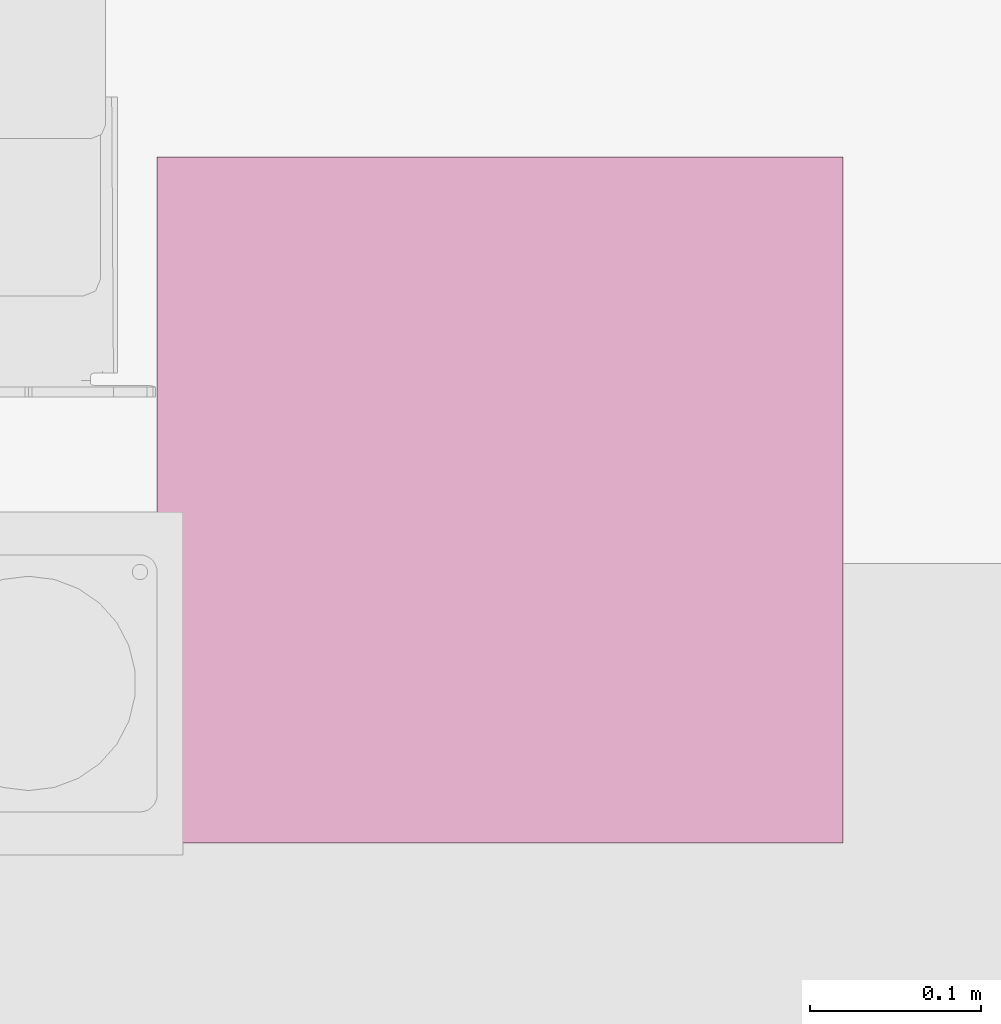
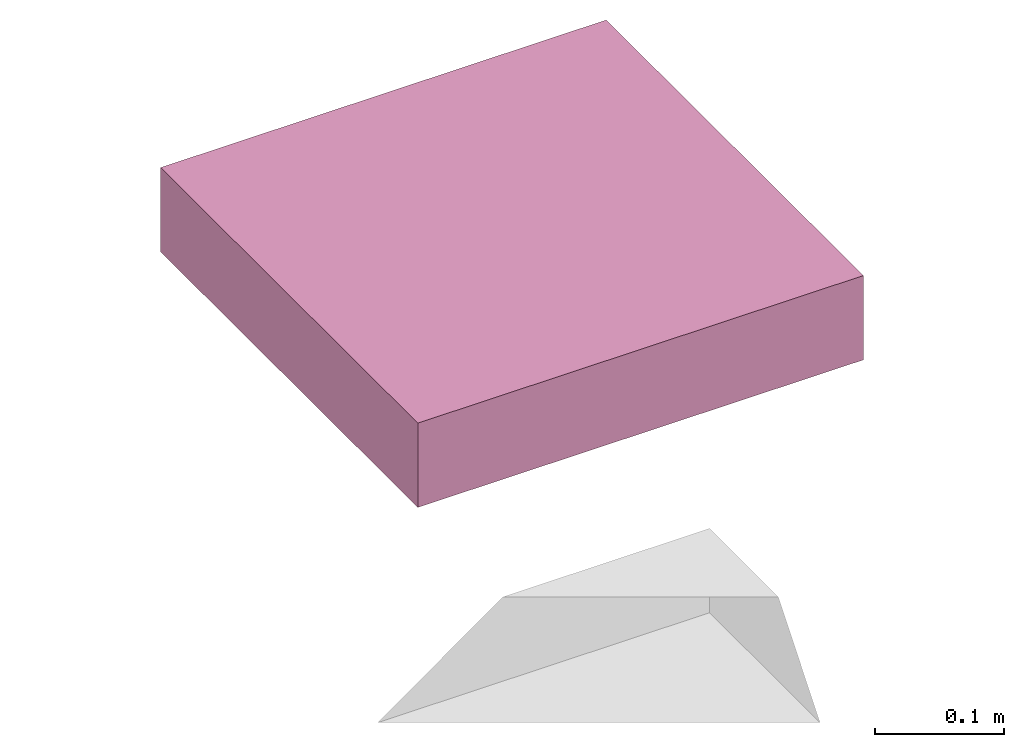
# One storey, part 15 of 15: 1 transport element.
"""IFC2X3 building model written with IfcOpenShell, lengths in millimetres."""

import ifcopenshell
import ifcopenshell.guid

model = None  # the IFC model being written
_history = None  # IfcOwnerHistory: only IFC2X3 demands one
_inside = {}  # id of a spatial element -> (the spatial element, [elements in it])
_under = {}  # id of a project, library or spatial element -> (it, [spatial elements below it])
_declared = {}  # id of a project -> (the project, [libraries it declares])
_typed = {}  # id of a type object -> (the type object, [elements of that type])
_made_of = {}  # id of a material, layer set ... -> (it, [elements and type objects made of it])


def new_model(schema):
    """Start an empty IFC model of exactly this schema.

    Asked for "IFC4X3", IfcOpenShell would pick the latest addendum, in which some entities
    have other attributes; the version numbers below select the first issue.
    IFC2X3 requires an IfcOwnerHistory on every rooted entity: one is made here for all.
    """
    global model, _history
    if schema == "IFC4X3":
        model = ifcopenshell.file(schema_version=(4, 3, 0, 0))
    else:
        model = ifcopenshell.file(schema=schema)
    _inside.clear()
    _under.clear()
    _declared.clear()
    _typed.clear()
    _made_of.clear()
    _history = None
    if model.schema == "IFC2X3":
        org = make("IfcOrganization", Name="unknown")
        user = make(
            "IfcPersonAndOrganization",
            ThePerson=make("IfcPerson", FamilyName="unknown"),
            TheOrganization=org,
        )
        app = make(
            "IfcApplication",
            ApplicationDeveloper=org,
            Version="unknown",
            ApplicationFullName="unknown",
            ApplicationIdentifier="unknown",
        )
        _history = make(
            "IfcOwnerHistory",
            OwningUser=user,
            OwningApplication=app,
            ChangeAction="ADDED",
            CreationDate=0,
        )
    return model


def make(cls, **values):
    """One entity of the class cls with the attributes given. An attribute that is None is left unset."""
    return model.create_entity(
        cls, **{name: value for name, value in values.items() if value is not None}
    )


def entity(cls, *values):
    """Any entity or typed value of the class cls, its attributes in the order of the schema. None: left unset."""
    e = model.create_entity(cls)
    for i, value in enumerate(values):
        if value is not None:
            e[i] = value
    return e


def rooted(cls, **values):
    """An entity with a GlobalId (a new one), such as an element, a storey or a relation."""
    return make(cls, GlobalId=ifcopenshell.guid.new(), OwnerHistory=_history, **values)


def si_unit(unit_type, name, prefix=None):
    """IfcSIUnit, for example si_unit("LENGTHUNIT", "METRE", prefix="MILLI")."""
    return make("IfcSIUnit", UnitType=unit_type, Prefix=prefix, Name=name)


def converted_unit(unit_type, name, factor, base, dimensions=None, offset=None):
    """IfcConversionBasedUnit, such as the inch: factor (a typed value) times the base unit."""
    return make(
        "IfcConversionBasedUnit"
        if offset is None
        else "IfcConversionBasedUnitWithOffset",
        ConversionOffset=offset,
        Dimensions=None
        if dimensions is None
        else entity("IfcDimensionalExponents", *dimensions),
        UnitType=unit_type,
        Name=name,
        ConversionFactor=make(
            "IfcMeasureWithUnit", ValueComponent=factor, UnitComponent=base
        ),
    )


def derived_unit(unit_type, elements):
    """IfcDerivedUnit: a product of units, each with its exponent."""
    return make(
        "IfcDerivedUnit",
        Elements=[
            make("IfcDerivedUnitElement", Unit=unit, Exponent=power)
            for unit, power in elements
        ],
        UnitType=unit_type,
    )


def assignment(units):
    """IfcUnitAssignment: the units of a project."""
    return None if units is None else make("IfcUnitAssignment", Units=units)


def point(xyz):
    """IfcCartesianPoint."""
    return None if xyz is None else make("IfcCartesianPoint", Coordinates=xyz)


def direction(xyz):
    """IfcDirection."""
    return None if xyz is None else make("IfcDirection", DirectionRatios=xyz)


def frame(location, z_axis=None, x_axis=None):
    """IfcAxis2Placement3D, a coordinate frame: its origin and axes. An axis left out is left unset."""
    return make(
        "IfcAxis2Placement3D",
        Location=point(location),
        Axis=direction(z_axis),
        RefDirection=direction(x_axis),
    )


def origin():
    """The frame at (0, 0, 0) with its axes left unset."""
    return frame((0.0, 0.0, 0.0))


def place(relative_to, where):
    """IfcLocalPlacement: puts the frame where relative to a parent placement (None: the world)."""
    return make(
        "IfcLocalPlacement", PlacementRelTo=relative_to, RelativePlacement=where
    )


def context(
    kind, dimensions, precision=None, world=None, true_north=None, identifier=None
):
    """IfcGeometricRepresentationContext, for example the 3D "Model" context."""
    return make(
        "IfcGeometricRepresentationContext",
        ContextIdentifier=identifier,
        ContextType=kind,
        CoordinateSpaceDimension=dimensions,
        Precision=precision,
        WorldCoordinateSystem=world,
        TrueNorth=true_north,
    )


def subcontext(parent, identifier, kind, view, scale=None):
    """IfcGeometricRepresentationSubContext, for example "Body" below "Model"."""
    return make(
        "IfcGeometricRepresentationSubContext",
        ContextIdentifier=identifier,
        ContextType=kind,
        ParentContext=parent,
        TargetScale=scale,
        TargetView=view,
    )


def project(units=None, contexts=None):
    """IfcProject with its units and contexts."""
    return rooted(
        "IfcProject",
        Name="project",
        RepresentationContexts=contexts,
        UnitsInContext=assignment(units),
    )


def spatial(cls, under=None, at=None, **own):
    """A site, building, storey or space (cls), placed at a placement, below another one or the project."""
    s = rooted(cls, ObjectPlacement=at, **own)
    if under is not None:
        _under.setdefault(under.id(), (under, []))[1].append(s)
    return s


def faces_of(points, faces, orient=None, outer=None):
    """IfcFace entities. A face is a list of loops; a loop is a list of indices into points, from 0.

    orient and outer hold one flag for each loop. By default every Orientation is true, the
    first loop of a face is its IfcFaceOuterBound and the others are IfcFaceBound.
    """
    made = []
    for i, loops in enumerate(faces):
        bounds = []
        for j, loop in enumerate(loops):
            is_outer = j == 0 if outer is None else outer[i][j]
            bounds.append(
                make(
                    "IfcFaceOuterBound" if is_outer else "IfcFaceBound",
                    Bound=make("IfcPolyLoop", Polygon=[points[k] for k in loop]),
                    Orientation=True if orient is None else orient[i][j],
                )
            )
        made.append(make("IfcFace", Bounds=bounds))
    return made


def faceted_brep(points, faces, orient=None, outer=None, voids=None):
    """IfcFacetedBrep: a solid bounded by flat faces; with voids (closed shells), ...WithVoids."""
    shared = [point(p) for p in points]
    hull = make("IfcClosedShell", CfsFaces=faces_of(shared, faces, orient, outer))
    if voids is None:
        return make("IfcFacetedBrep", Outer=hull)
    return make(
        "IfcFacetedBrepWithVoids",
        Outer=hull,
        Voids=[
            make(cls, CfsFaces=faces_of(shared, fs, o, b)) for cls, fs, o, b in voids
        ],
    )


def shape(context_of_items, identifier, shape_type, items):
    """IfcShapeRepresentation: the items that make up one representation, for example the "Body"."""
    return make(
        "IfcShapeRepresentation",
        ContextOfItems=context_of_items,
        RepresentationIdentifier=identifier,
        RepresentationType=shape_type,
        Items=items,
    )


def source(mapping_origin, context_of_items, identifier, shape_type, items):
    """IfcRepresentationMap: a shape defined once, which mapped items show again and again."""
    return make(
        "IfcRepresentationMap",
        MappingOrigin=mapping_origin,
        MappedRepresentation=shape(context_of_items, identifier, shape_type, items),
    )


def transform(
    local_origin,
    x_axis=None,
    y_axis=None,
    z_axis=None,
    scale=None,
    scale2=None,
    scale3=None,
    uniform=True,
):
    """IfcCartesianTransformationOperator3D, or its non-uniform kind. x_axis, y_axis, z_axis: its Axis1, 2, 3."""
    if uniform:
        return make(
            "IfcCartesianTransformationOperator3D",
            Axis1=direction(x_axis),
            Axis2=direction(y_axis),
            LocalOrigin=point(local_origin),
            Scale=scale,
            Axis3=direction(z_axis),
        )
    return make(
        "IfcCartesianTransformationOperator3DnonUniform",
        Axis1=direction(x_axis),
        Axis2=direction(y_axis),
        LocalOrigin=point(local_origin),
        Scale=scale,
        Axis3=direction(z_axis),
        Scale2=scale2,
        Scale3=scale3,
    )


def mapped(mapping_source, mapping_target):
    """IfcMappedItem: shows the shape of a source again, moved by a transform."""
    return make(
        "IfcMappedItem", MappingSource=mapping_source, MappingTarget=mapping_target
    )


def material(Name=None, Category=None):
    """IfcMaterial."""
    return make("IfcMaterial", Name=Name, Category=Category)


def material_list(materials):
    """IfcMaterialList."""
    return make("IfcMaterialList", Materials=materials)


def made_of(thing, what):
    """Note that an element or type object is made of a material, layer set ...; save() writes the relation."""
    if what is not None:
        _made_of.setdefault(what.id(), (what, []))[1].append(thing)
    return thing


def type_object(cls, material=None, **own):
    """A type object (cls), such as IfcWallType, which elements share."""
    return made_of(rooted(cls, **own), material)


def type_shapes(of_type, sources):
    """Give a type object the sources (RepresentationMaps) that its elements show as mapped items."""
    of_type.RepresentationMaps = sources


def element(
    cls,
    number,
    at=None,
    inside=None,
    cuts=None,
    type_object=None,
    material=None,
    context=None,
    identifier="Body",
    shape_type=None,
    held_by="IfcProductDefinitionShape",
    body=None,
    shapes=None,
    **own,
):
    """One element of the class cls, such as IfcWall. Its Tag is "e" and its number.

    at: its placement. inside: the storey or other place that contains it. cuts: it is an
    opening in that element (IfcRelVoidsElement). A single representation is given by context,
    identifier, shape_type and body (its items); several are given by shapes. held_by: the class
    of the entity that holds the representations. save() writes the other relations.
    """
    e = rooted(cls, Tag="e%d" % number, ObjectPlacement=at, **own)
    if body is not None:
        shapes = [shape(context, identifier, shape_type, body)]
    if shapes is not None:
        e.Representation = make(held_by, Representations=shapes)
    if inside is not None:
        _inside.setdefault(inside.id(), (inside, []))[1].append(e)
    if cuts is not None:
        rooted(
            "IfcRelVoidsElement", RelatingBuildingElement=cuts, RelatedOpeningElement=e
        )
    if type_object is not None:
        _typed.setdefault(type_object.id(), (type_object, []))[1].append(e)
    return made_of(e, material)


def aggregate(whole, parts):
    """IfcRelAggregates: a whole, such as a stair, and the parts it consists of."""
    return rooted("IfcRelAggregates", RelatingObject=whole, RelatedObjects=parts)


def save(model, path):
    """Write the relations noted so far, then the file.

    IfcRelAggregates (storeys below a building ...), IfcRelContainedInSpatialStructure (elements
    in a storey), IfcRelDefinesByType, IfcRelAssociatesMaterial and IfcRelDeclares: one each for
    every whole, place, type object, material and project.
    """
    for whole, parts in _under.values():
        aggregate(whole, parts)
    for where, things in _inside.values():
        rooted(
            "IfcRelContainedInSpatialStructure",
            RelatedElements=things,
            RelatingStructure=where,
        )
    for kind, things in _typed.values():
        rooted("IfcRelDefinesByType", RelatedObjects=things, RelatingType=kind)
    for what, things in _made_of.values():
        rooted("IfcRelAssociatesMaterial", RelatedObjects=things, RelatingMaterial=what)
    for by, libraries in _declared.values():
        rooted("IfcRelDeclares", RelatingContext=by, RelatedDefinitions=libraries)
    model.write(path)


model = new_model("IFC2X3")

# Units and contexts
model_context = context("Model", 3, precision=0.01, world=origin(), true_north=direction((6.12303176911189e-17, 1.0)))
body_context = subcontext(model_context, "Body", "Model", "MODEL_VIEW")
ifc_project = project(units=[si_unit("LENGTHUNIT", "METRE", prefix="MILLI"), si_unit("AREAUNIT", "SQUARE_METRE"), si_unit("VOLUMEUNIT", "CUBIC_METRE"), converted_unit("PLANEANGLEUNIT", "DEGREE", entity("IfcRatioMeasure", 0.0174532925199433), si_unit("PLANEANGLEUNIT", "RADIAN"), dimensions=[0, 0, 0, 0, 0, 0, 0]), si_unit("MASSUNIT", "GRAM", prefix="KILO"), derived_unit("MASSDENSITYUNIT", [(si_unit("MASSUNIT", "GRAM", prefix="KILO"), 1), (si_unit("LENGTHUNIT", "METRE"), -3)]), si_unit("TIMEUNIT", "SECOND"), si_unit("FREQUENCYUNIT", "HERTZ"), si_unit("THERMODYNAMICTEMPERATUREUNIT", "DEGREE_CELSIUS"), derived_unit("THERMALTRANSMITTANCEUNIT", [(si_unit("MASSUNIT", "GRAM", prefix="KILO"), 1), (si_unit("THERMODYNAMICTEMPERATUREUNIT", "KELVIN"), -1), (si_unit("TIMEUNIT", "SECOND"), -3)]), derived_unit("VOLUMETRICFLOWRATEUNIT", [(si_unit("LENGTHUNIT", "METRE"), 3), (si_unit("TIMEUNIT", "SECOND"), -1)]), si_unit("ELECTRICCURRENTUNIT", "AMPERE"), si_unit("ELECTRICVOLTAGEUNIT", "VOLT"), si_unit("POWERUNIT", "WATT"), si_unit("FORCEUNIT", "NEWTON", prefix="KILO"), si_unit("ILLUMINANCEUNIT", "LUX"), si_unit("LUMINOUSFLUXUNIT", "LUMEN"), si_unit("LUMINOUSINTENSITYUNIT", "CANDELA"), derived_unit("USERDEFINED", [(si_unit("MASSUNIT", "GRAM", prefix="KILO"), -1), (si_unit("LENGTHUNIT", "METRE"), -2), (si_unit("TIMEUNIT", "SECOND"), 3), (si_unit("LUMINOUSFLUXUNIT", "LUMEN"), 1)]), derived_unit("LINEARVELOCITYUNIT", [(si_unit("LENGTHUNIT", "METRE"), 1), (si_unit("TIMEUNIT", "SECOND"), -1)]), si_unit("PRESSUREUNIT", "PASCAL"), derived_unit("USERDEFINED", [(si_unit("LENGTHUNIT", "METRE"), -2), (si_unit("MASSUNIT", "GRAM", prefix="KILO"), 1), (si_unit("TIMEUNIT", "SECOND"), -2)])], contexts=[model_context])

# Site, building, storey
site_placement = place(None, frame((-151.875543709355, 2715.0, 0.0)))
site = spatial("IfcSite", under=ifc_project, at=site_placement, Name="Surface", CompositionType="ELEMENT")
building_placement = place(site_placement, origin())
building = spatial("IfcBuilding", under=site, at=building_placement, CompositionType="ELEMENT")
storey_placement = place(building_placement, frame((0.0, 0.0, -135.0)))
storey = spatial("IfcBuildingStorey", under=building, at=storey_placement, Name="uus 1 korrus", CompositionType="ELEMENT", Elevation=-134.99999999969)

# Transport element
ifc_material_1 = material(Name="Site specified")
ifc_material_2 = material(Name="Void")
ifc_material_list_1 = material_list([ifc_material_1, ifc_material_2])
ifc_material_list_2 = material_list([ifc_material_1, ifc_material_2])
transport_element_type = type_object("IfcTransportElementType", Name="KONE_Hook_Embedded", material=ifc_material_list_2)
shared_shape = source(origin(), body_context, "Body", "Brep", [
    faceted_brep([(158.0, 200.0, 81.595272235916), (162.250000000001, 192.638784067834, 81.595272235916), (170.750000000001, 192.638784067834, 81.595272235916), (175.0, 200.0, 81.595272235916), (170.750000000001, 207.36121593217, 81.595272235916), (162.250000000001, 207.36121593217, 81.595272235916), (225.0, 200.0, 81.595272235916), (229.250000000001, 192.638784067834, 81.595272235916), (237.750000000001, 192.638784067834, 81.595272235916), (242.0, 200.0, 81.595272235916), (237.750000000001, 207.36121593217, 81.595272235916), (229.250000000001, 207.36121593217, 81.595272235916), (162.250000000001, 207.36121593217, 43.5952722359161), (160.673921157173, 204.631367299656, 43.5952722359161), (158.0, 200.0, 43.5952722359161), (170.750000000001, 207.36121593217, 43.5952722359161), (166.500000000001, 207.36121593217, 43.5952722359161), (237.750000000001, 207.36121593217, 43.5952722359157), (233.500000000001, 207.36121593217, 43.5952722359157), (229.250000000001, 207.36121593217, 43.5952722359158), (175.0, 200.0, 43.5952722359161), (170.750000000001, 192.638784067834, 43.5952722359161), (162.250000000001, 192.638784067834, 43.5952722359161), (166.500000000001, 192.638784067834, 43.5952722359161), (229.250000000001, 192.638784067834, 43.5952722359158), (233.500000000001, 192.638784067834, 43.5952722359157), (237.750000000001, 192.638784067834, 43.5952722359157), (160.673921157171, 195.36863270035, 43.5952722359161), (161.461960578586, 194.003708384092, 43.5952722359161), (170.151341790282, 208.499248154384, 28.6371345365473), (164.274666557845, 207.443109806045, 31.8552444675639), (167.478561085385, 200.0, 34.1167111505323), (181.4852828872, 206.504077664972, 9.30165952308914), (180.017915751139, 208.482350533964, 17.3925017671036), (186.035160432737, 208.466329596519, 13.9783073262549), (165.108920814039, 200.0, 36.4863514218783), (162.739280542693, 200.0, 38.8559916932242), (175.265378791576, 208.172795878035, 24.6370743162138), (170.677751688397, 206.306410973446, 17.5804429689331), (235.725333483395, 207.443109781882, 31.8552444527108), (232.521438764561, 200.0, 34.1167110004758), (227.782158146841, 200.0, 29.3774303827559), (175.802884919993, 206.403554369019, 12.8950688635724), (229.848658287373, 208.499248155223, 28.6371345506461), (225.0, 200.0, 43.5952722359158), (233.204723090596, 205.992520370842, 22.149333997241), (223.042877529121, 200.0, 24.638149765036), (229.322248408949, 206.306410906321, 17.5804429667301), (182.717841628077, 200.0, 18.8774306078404), (165.870361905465, 205.904225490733, 23.4831882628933), (237.260719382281, 200.0, 38.8559916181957), (239.326078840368, 204.63136730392, 43.5952722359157), (240.663039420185, 202.315683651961, 43.5952722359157), (242.0, 200.0, 43.5952722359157), (239.630359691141, 200.0, 41.2256319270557), (179.090678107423, 200.0, 40.6232206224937), (183.181356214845, 200.0, 37.6511690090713), (187.272034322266, 200.0, 34.679117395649), (194.239280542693, 200.0, 7.35599169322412), (188.478561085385, 200.0, 13.1167111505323), (187.960328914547, 206.305679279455, 6.2901066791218), (200.0, 200.0, 1.59527223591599), (195.040231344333, 205.729975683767, 4.12736220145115), (201.243024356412, 205.9940098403, 4.08806135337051), (192.576836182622, 208.495859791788, 11.2001469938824), (200.974461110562, 208.499563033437, 10.195671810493), (215.695586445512, 206.846266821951, 19.8518540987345), (221.078790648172, 208.486555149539, 16.9460359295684), (215.801522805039, 208.240182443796, 11.7104623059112), (216.362712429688, 200.0, 31.7070657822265), (220.649985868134, 206.275984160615, 25.0316012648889), (220.681356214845, 200.0, 37.6511690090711), (225.156851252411, 208.281902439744, 24.4938908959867), (211.521438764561, 200.0, 13.116711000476), (217.282158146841, 200.0, 18.877430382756), (212.044068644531, 200.0, 25.7629625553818), (205.882407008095, 206.800041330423, 15.8110965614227), (205.760719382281, 200.0, 7.35599161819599), (209.353280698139, 208.300958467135, 9.52722095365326), (207.725424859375, 200.0, 19.8188593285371), (203.634746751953, 200.0, 22.7909109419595), (195.45339053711, 200.0, 28.7350141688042), (199.544068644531, 200.0, 25.7629625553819), (172.217841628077, 200.0, 29.3774306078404), (176.957122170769, 200.0, 24.6381500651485), (191.362712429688, 200.0, 31.7070657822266), (164.274666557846, 192.556890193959, 31.8552444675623), (170.15134179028, 191.50075184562, 28.6371345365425), (180.017915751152, 191.517649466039, 17.3925017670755), (186.035160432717, 191.533670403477, 13.9783073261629), (188.282766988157, 193.586955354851, 6.31447286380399), (192.576836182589, 191.504140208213, 11.2001469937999), (165.870361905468, 194.095774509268, 23.4831882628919), (175.265378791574, 191.827204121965, 24.6370743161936), (170.677751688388, 193.693589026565, 17.5804429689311), (235.725333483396, 192.556890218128, 31.8552444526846), (221.078790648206, 191.513444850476, 16.9460359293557), (181.485282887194, 193.495922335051, 9.30165952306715), (240.663039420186, 197.684316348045, 43.5952722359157), (239.32607884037, 195.368632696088, 43.5952722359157), (175.802884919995, 193.596445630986, 12.8950688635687), (229.848658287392, 191.50075184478, 28.6371345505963), (209.353280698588, 191.699041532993, 9.52722095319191), (206.151272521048, 193.221652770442, 15.8988817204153), (201.019450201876, 191.522326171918, 10.7267455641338), (202.03891580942, 193.870239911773, 4.25944229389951), (195.4636485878, 194.198533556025, 4.142892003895), (215.695586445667, 193.153733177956, 19.8518540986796), (220.64998586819, 193.724015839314, 25.0316012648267), (229.322248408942, 193.693589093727, 17.5804429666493), (215.801522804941, 191.759817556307, 11.7104623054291), (233.204723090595, 194.007479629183, 22.1493339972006), (225.156851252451, 191.718097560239, 24.4938908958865)], [[[0, 1, 2, 3, 4, 5]], [[6, 7, 8, 9, 10, 11]], [[0, 5, 12, 13, 14]], [[5, 4, 15, 16, 12]], [[17, 18, 19, 11, 10]], [[4, 3, 20, 15]], [[3, 2, 21, 20]], [[2, 1, 22, 23, 21]], [[24, 25, 26, 8, 7]], [[1, 0, 14, 27, 28, 22]], [[20, 29, 15]], [[16, 15, 30]], [[30, 31, 16]], [[12, 16, 31]], [[32, 33, 34]], [[35, 36, 14, 13, 12, 31]], [[29, 37, 38]], [[39, 40, 41]], [[42, 33, 32]], [[43, 44, 19]], [[45, 46, 47]], [[39, 43, 19]], [[38, 42, 48]], [[45, 39, 41]], [[49, 29, 38]], [[50, 40, 17, 51, 52, 53, 54]], [[29, 55, 37]], [[37, 55, 56, 57]], [[58, 59, 60]], [[61, 62, 63]], [[62, 64, 65]], [[66, 67, 68]], [[66, 69, 70]], [[70, 71, 72]], [[73, 67, 74]], [[67, 72, 47]], [[46, 74, 47]], [[75, 66, 76]], [[30, 29, 49]], [[68, 77, 78]], [[43, 47, 72]], [[47, 74, 67]], [[79, 75, 76]], [[72, 67, 70]], [[43, 71, 44]], [[67, 66, 70]], [[66, 75, 69]], [[71, 43, 72]], [[70, 69, 71]], [[78, 66, 68]], [[78, 77, 63]], [[68, 67, 73]], [[80, 76, 65]], [[81, 82, 64]], [[30, 83, 31]], [[84, 83, 49]], [[30, 15, 29]], [[18, 17, 40]], [[18, 40, 39]], [[19, 18, 39]], [[47, 43, 45]], [[42, 32, 59]], [[38, 48, 84]], [[37, 42, 38]], [[57, 85, 33]], [[29, 20, 55]], [[48, 42, 59]], [[33, 42, 37]], [[32, 34, 60]], [[59, 32, 60]], [[30, 49, 83]], [[62, 60, 64]], [[85, 34, 33]], [[58, 60, 62]], [[60, 34, 64]], [[62, 61, 58]], [[65, 63, 62]], [[78, 65, 76]], [[65, 64, 82]], [[78, 76, 66]], [[65, 82, 80]], [[80, 79, 76]], [[46, 45, 41]], [[63, 65, 78]], [[33, 37, 57]], [[61, 63, 77]], [[77, 68, 73]], [[45, 43, 39]], [[64, 34, 81]], [[34, 85, 81]], [[84, 49, 38]], [[86, 87, 21]], [[85, 57, 88]], [[28, 27, 14, 36, 35, 31, 22]], [[89, 90, 91]], [[21, 87, 20]], [[92, 86, 83]], [[93, 55, 87]], [[48, 94, 84]], [[25, 40, 26]], [[25, 24, 95]], [[96, 73, 74]], [[90, 89, 97]], [[50, 54, 53, 98, 99, 26, 40]], [[95, 40, 25]], [[59, 97, 100]], [[44, 101, 24]], [[93, 100, 88]], [[86, 31, 83]], [[92, 84, 94]], [[102, 103, 104]], [[61, 105, 106]], [[69, 107, 108]], [[109, 74, 46]], [[107, 102, 110]], [[69, 75, 107]], [[96, 107, 110]], [[109, 111, 101]], [[101, 112, 109]], [[105, 77, 102]], [[105, 104, 106]], [[109, 96, 74]], [[96, 109, 112]], [[112, 108, 96]], [[108, 112, 71]], [[107, 75, 103]], [[71, 101, 44]], [[107, 96, 108]], [[71, 69, 108]], [[71, 112, 101]], [[103, 102, 107]], [[110, 73, 96]], [[91, 82, 81]], [[46, 111, 109]], [[95, 41, 40]], [[46, 41, 111]], [[95, 24, 101]], [[23, 22, 31]], [[23, 31, 86]], [[21, 23, 86]], [[87, 86, 92]], [[100, 48, 59]], [[87, 94, 93]], [[94, 48, 100]], [[57, 56, 55, 93]], [[94, 100, 93]], [[97, 88, 100]], [[88, 97, 89]], [[106, 90, 58]], [[88, 57, 93]], [[59, 90, 97]], [[81, 85, 89]], [[91, 90, 106]], [[59, 58, 90]], [[104, 91, 106]], [[61, 106, 58]], [[104, 82, 91]], [[103, 80, 104]], [[105, 102, 104]], [[110, 77, 73]], [[77, 110, 102]], [[105, 61, 77]], [[75, 79, 103]], [[82, 104, 80]], [[103, 79, 80]], [[89, 85, 88]], [[111, 95, 101]], [[95, 111, 41]], [[91, 81, 89]], [[87, 92, 94]], [[84, 92, 83]], [[20, 87, 55]], [[53, 52, 51, 17, 10, 9]], [[19, 44, 6, 11]], [[44, 24, 7, 6]], [[26, 99, 98, 53, 9, 8]]]),
    faceted_brep([(0.0, 0.0, 81.595272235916), (400.0, 0.0, 81.595272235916), (400.0, 400.0, 81.595272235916), (0.0, 400.0, 81.595272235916), (0.0, 0.0, 1.595272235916), (0.0, 400.0, 1.595272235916), (400.0, 400.0, 1.595272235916), (400.0, 0.0, 1.595272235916)], [[[0, 1, 2, 3]], [[4, 5, 6, 7]], [[3, 5, 4, 0]], [[2, 6, 5, 3]], [[1, 7, 6, 2]], [[0, 4, 7, 1]]]),
])
type_shapes(transport_element_type, [shared_shape])
transport_element_placement = place(storey_placement, frame((31231.6177671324, 21037.0, 11703.4047277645), z_axis=(0.0, 0.0, 1.0), x_axis=(0.0, 1.0, 0.0)))
element("IfcTransportElement", 1, at=transport_element_placement, inside=storey, type_object=transport_element_type, material=ifc_material_list_1, Name="KONE_Hook_Embedded:KONE_Hook_Embedded", ObjectType="KONE_Hook_Embedded", CapacityByNumber=0.0, CapacityByWeight=0.0, OperationType="ELEVATOR", context=body_context, shape_type="MappedRepresentation", body=[
    mapped(shared_shape, transform((0.0, 0.0, 0.0), scale=1.0)),
])

save(model, "model.ifc")
